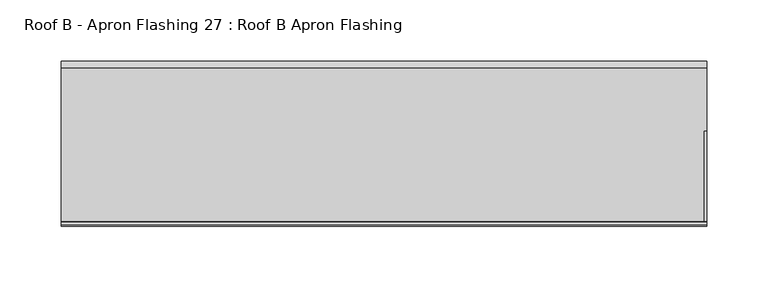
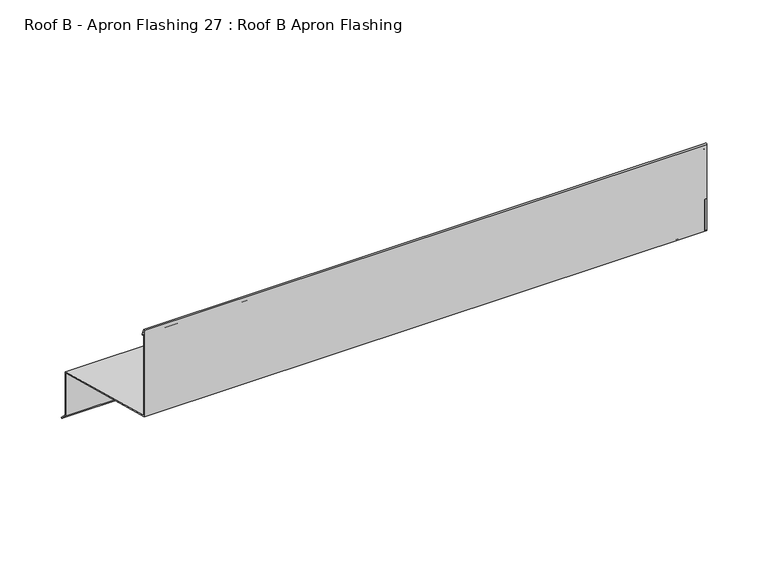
"""IFC4 building model written with IfcOpenShell, lengths in millimetres: proxy geometry, Roof B - Apron Flashing 27 : Roof B Apron Flashing."""

from ifc_helpers import new_model, si_unit, point, frame, frame_2d, origin, place, context, project, spatial, polyline, circle_curve, trimmed, segment, composite_curve, outline, extrude, source, transform, mapped, element, save


def roof_b_apron_flashing_27_roof_b_apron_flashing_a0986a9a(model_context):
    return source(origin(), model_context, "Body", "SweptSolid", [
        extrude(outline(polyline([(-20595.1136752, -388.7215885), (-20640.3616572, -376.5974283), (-20640.3616572, -333.9762204), (-20595.1136752, -346.1003806), (-20595.1136752, -388.7215885)])), frame((17206.3973206, 0.0, 0.0), z_axis=(1.0, 0.0, 0.0), x_axis=(0.0, 1.0, 0.0)), (0.0, 0.0, 1.0), 2.0),
        extrude(outline(polyline([(-20645.3616572, -331.6011982), (-20723.4866572, -310.6676676), (-20723.4866572, -279.7934577), (-20645.3616572, -300.7269884), (-20645.3616572, -331.6011982)])), frame((17206.3973206, 0.0, 0.0), z_axis=(1.0, 0.0, 0.0), x_axis=(0.0, 1.0, 0.0)), (0.0, 0.0, 1.0), 2.0),
        extrude(outline(composite_curve([segment(polyline([(-20594.1136752, -345.3330536), (-20594.1136752, -388.338713), (-20588.0830399, -394.3693483), (-20588.7901467, -395.0764551), (-20595.1136752, -388.7529266), (-20595.1136752, -346.1003806), (-20723.4866572, -311.7029438), (-20723.4866572, -225.8538686)]), True, "CONTINUOUS"), segment(trimmed(circle_curve(frame_2d((-20722.807613, -225.8538686)), 0.6790442), [point((-20723.4866572, -225.8538686))], [point((-20722.1780142, -225.5994942))], False, "CARTESIAN"), True, "CONTINUOUS"), segment(polyline([(-20722.1780142, -225.5994942), (-20719.7635593, -231.5754797)]), True, "CONTINUOUS"), segment(trimmed(circle_curve(frame_2d((-20720.2271512, -231.762783)), 0.5), [point((-20719.7635593, -231.5754797))], [point((-20720.6907432, -231.9500863))], False, "CARTESIAN"), True, "CONTINUOUS"), segment(polyline([(-20720.6907432, -231.9500863), (-20722.4866572, -227.5050431), (-20722.4866572, -310.9356168), (-20594.1136752, -345.3330536)]), True, "CONTINUOUS")], self_intersect=False)), frame((16679.5223206, 0.0, 0.0), z_axis=(1.0, 0.0, 0.0), x_axis=(0.0, 1.0, 0.0)), (0.0, 0.0, 1.0), 528.875),
    ])


if __name__ == "__main__":
    model = new_model("IFC4")
    model_context = context("Model", 3, world=origin())
    ifc_project = project(units=[si_unit("LENGTHUNIT", "METRE", prefix="MILLI")], contexts=[model_context])
    site = spatial("IfcSite", under=ifc_project)
    building = spatial("IfcBuilding", under=site)
    placement = place(None, origin())
    roof_b_apron_flashing_27_roof_b_apron_flashing_shape = roof_b_apron_flashing_27_roof_b_apron_flashing_a0986a9a(model_context)
    element("IfcBuildingElementProxy", 1, Name="Roof B - Apron Flashing 27 : Roof B Apron Flashing", ObjectType="Roof B - Apron Flashing 27 : Roof B Apron Flashing", at=placement, inside=building, context=model_context, shape_type="MappedRepresentation", body=[
        mapped(roof_b_apron_flashing_27_roof_b_apron_flashing_shape, transform((0.0, 0.0, 0.0), x_axis=(1.0, 0.0, 0.0), y_axis=(0.0, 1.0, 0.0), z_axis=(0.0, 0.0, 1.0))),
    ])
    save(model, "model.ifc")
